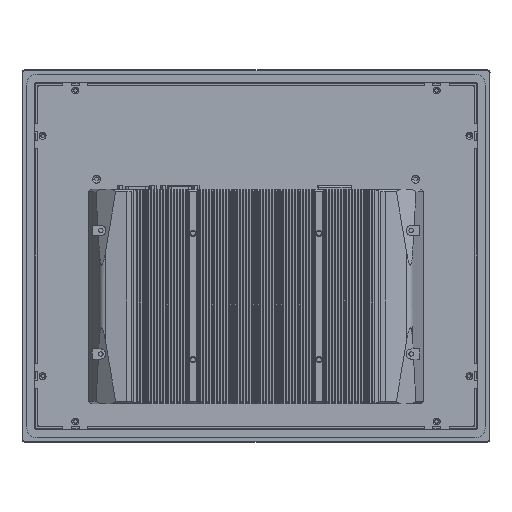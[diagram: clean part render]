
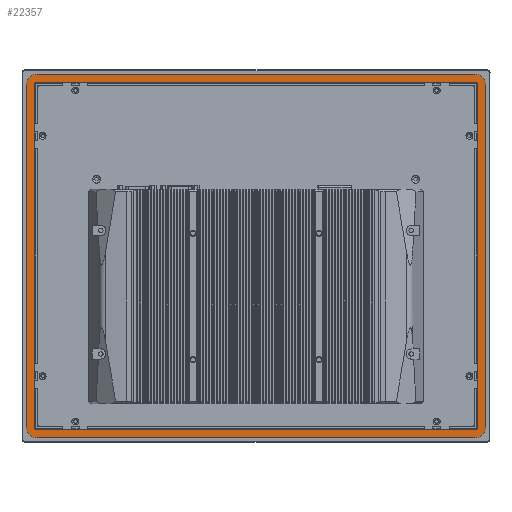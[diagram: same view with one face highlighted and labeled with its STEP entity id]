
A CAD part, front view. The second image highlights one B-rep face of the part: STEP entity #22357.
In plain terms, the highlighted planar face has unit normal (0, -1, 0).
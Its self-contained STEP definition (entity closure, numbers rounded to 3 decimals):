
#426 = ORIENTED_EDGE ( 'NONE', *, *, #109760, .T. ) ;
#1525 = DIRECTION ( 'NONE',  ( -1., 0., 0. ) ) ;
#4858 = EDGE_CURVE ( 'NONE', #86184, #73108, #131127, .T. ) ;
#7543 = DIRECTION ( 'NONE',  ( 0., 1., 0. ) ) ;
#7594 = CARTESIAN_POINT ( 'NONE',  ( 182., -9., 135.5 ) ) ;
#7769 = VERTEX_POINT ( 'NONE', #75004 ) ;
#8600 = CARTESIAN_POINT ( 'NONE',  ( -173.5, -9., 135.5 ) ) ;
#9319 = CARTESIAN_POINT ( 'NONE',  ( 0., -9., 0. ) ) ;
#9614 = LINE ( 'NONE', #27772, #41116 ) ;
#10634 = EDGE_LOOP ( 'NONE', ( #29752, #113581, #66271, #426, #45036, #32318, #91022, #114667 ) ) ;
#12299 = DIRECTION ( 'NONE',  ( 0., 0., -1. ) ) ;
#13173 = CARTESIAN_POINT ( 'NONE',  ( -173.5, -9., 135.5 ) ) ;
#13423 = CARTESIAN_POINT ( 'NONE',  ( 173.5, -9., -135.5 ) ) ;
#13858 = CARTESIAN_POINT ( 'NONE',  ( 175.5, -9., -137.5 ) ) ;
#14864 = CIRCLE ( 'NONE', #36003, 8.5 ) ;
#14929 = VERTEX_POINT ( 'NONE', #99655 ) ;
#16047 = CIRCLE ( 'NONE', #64985, 8.5 ) ;
#17199 = AXIS2_PLACEMENT_3D ( 'NONE', #13173, #63995, #12299 ) ;
#18467 = EDGE_CURVE ( 'NONE', #89894, #63931, #14864, .T. ) ;
#19795 = LINE ( 'NONE', #13858, #102134 ) ;
#20173 = CARTESIAN_POINT ( 'NONE',  ( -175.5, -9., 137.5 ) ) ;
#21706 = DIRECTION ( 'NONE',  ( 0., -1., 0. ) ) ;
#22357 = ADVANCED_FACE ( 'NONE', ( #129421, #99268 ), #51252, .T. ) ;
#22934 = CARTESIAN_POINT ( 'NONE',  ( -173.5, -9., 144. ) ) ;
#23606 = EDGE_CURVE ( 'NONE', #73108, #89894, #71598, .T. ) ;
#24020 = CARTESIAN_POINT ( 'NONE',  ( -173.5, -9., -135.5 ) ) ;
#24896 = CARTESIAN_POINT ( 'NONE',  ( -173.5, -9., 137.5 ) ) ;
#25351 = CARTESIAN_POINT ( 'NONE',  ( 173.5, -9., -135.5 ) ) ;
#27772 = CARTESIAN_POINT ( 'NONE',  ( 0., -9., -144. ) ) ;
#27859 = DIRECTION ( 'NONE',  ( 1., 0., 0. ) ) ;
#28459 = CARTESIAN_POINT ( 'NONE',  ( 175.5, -9., 135.5 ) ) ;
#29037 = CIRCLE ( 'NONE', #81958, 2. ) ;
#29039 = VERTEX_POINT ( 'NONE', #49029 ) ;
#29752 = ORIENTED_EDGE ( 'NONE', *, *, #69521, .T. ) ;
#32318 = ORIENTED_EDGE ( 'NONE', *, *, #53743, .T. ) ;
#32803 = DIRECTION ( 'NONE',  ( 0., 0., -1. ) ) ;
#33212 = DIRECTION ( 'NONE',  ( 0., 0., 1. ) ) ;
#33687 = DIRECTION ( 'NONE',  ( 0., 0., -1. ) ) ;
#34212 = DIRECTION ( 'NONE',  ( -1., 0., 0. ) ) ;
#34239 = DIRECTION ( 'NONE',  ( 0., 0., 1. ) ) ;
#36003 = AXIS2_PLACEMENT_3D ( 'NONE', #24020, #44796, #124582 ) ;
#38207 = VERTEX_POINT ( 'NONE', #113673 ) ;
#38414 = LINE ( 'NONE', #20173, #81293 ) ;
#40677 = EDGE_LOOP ( 'NONE', ( #108850, #105939, #73577, #49762, #96096, #103130, #63522, #41793 ) ) ;
#40905 = CARTESIAN_POINT ( 'NONE',  ( -175.5, -9., -135.5 ) ) ;
#40959 = AXIS2_PLACEMENT_3D ( 'NONE', #106099, #44865, #44442 ) ;
#41116 = VECTOR ( 'NONE', #100416, 1000. ) ;
#41793 = ORIENTED_EDGE ( 'NONE', *, *, #117603, .T. ) ;
#44442 = DIRECTION ( 'NONE',  ( 0., 0., 1. ) ) ;
#44796 = DIRECTION ( 'NONE',  ( 0., -1., 0. ) ) ;
#44811 = LINE ( 'NONE', #51952, #122525 ) ;
#44865 = DIRECTION ( 'NONE',  ( 0., 1., 0. ) ) ;
#45036 = ORIENTED_EDGE ( 'NONE', *, *, #127810, .T. ) ;
#45775 = CARTESIAN_POINT ( 'NONE',  ( -173.5, -9., -137.5 ) ) ;
#46421 = CARTESIAN_POINT ( 'NONE',  ( -173.5, -9., -135.5 ) ) ;
#48780 = DIRECTION ( 'NONE',  ( 0., 0., 1. ) ) ;
#49029 = CARTESIAN_POINT ( 'NONE',  ( 175.5, -9., -135.5 ) ) ;
#49762 = ORIENTED_EDGE ( 'NONE', *, *, #4858, .T. ) ;
#50664 = DIRECTION ( 'NONE',  ( 0., 0., -1. ) ) ;
#51252 = PLANE ( 'NONE',  #71720 ) ;
#51952 = CARTESIAN_POINT ( 'NONE',  ( 0., -9., 144. ) ) ;
#53743 = EDGE_CURVE ( 'NONE', #101739, #14929, #38414, .T. ) ;
#54075 = AXIS2_PLACEMENT_3D ( 'NONE', #13423, #84181, #33687 ) ;
#57363 = CIRCLE ( 'NONE', #77711, 2. ) ;
#63522 = ORIENTED_EDGE ( 'NONE', *, *, #83062, .T. ) ;
#63931 = VERTEX_POINT ( 'NONE', #123451 ) ;
#63995 = DIRECTION ( 'NONE',  ( 0., -1., 0. ) ) ;
#64985 = AXIS2_PLACEMENT_3D ( 'NONE', #124902, #21706, #85843 ) ;
#65017 = CIRCLE ( 'NONE', #54075, 8.5 ) ;
#66271 = ORIENTED_EDGE ( 'NONE', *, *, #117138, .T. ) ;
#66387 = EDGE_CURVE ( 'NONE', #121182, #99756, #85779, .T. ) ;
#67625 = EDGE_CURVE ( 'NONE', #94264, #29039, #19795, .T. ) ;
#67705 = LINE ( 'NONE', #101144, #83630 ) ;
#69521 = EDGE_CURVE ( 'NONE', #99756, #94264, #128334, .T. ) ;
#70867 = VECTOR ( 'NONE', #34239, 1000. ) ;
#71100 = CARTESIAN_POINT ( 'NONE',  ( -182., -9., 135.5 ) ) ;
#71598 = LINE ( 'NONE', #111379, #114481 ) ;
#71720 = AXIS2_PLACEMENT_3D ( 'NONE', #9319, #91996, #100020 ) ;
#73108 = VERTEX_POINT ( 'NONE', #71100 ) ;
#73577 = ORIENTED_EDGE ( 'NONE', *, *, #82220, .T. ) ;
#74122 = LINE ( 'NONE', #94958, #70867 ) ;
#75004 = CARTESIAN_POINT ( 'NONE',  ( 182., -9., -135.5 ) ) ;
#77711 = AXIS2_PLACEMENT_3D ( 'NONE', #25351, #122302, #33212 ) ;
#81293 = VECTOR ( 'NONE', #130943, 1000. ) ;
#81958 = AXIS2_PLACEMENT_3D ( 'NONE', #46421, #7543, #117339 ) ;
#82220 = EDGE_CURVE ( 'NONE', #38207, #86184, #44811, .T. ) ;
#82790 = EDGE_CURVE ( 'NONE', #117852, #38207, #16047, .T. ) ;
#83062 = EDGE_CURVE ( 'NONE', #63931, #104671, #9614, .T. ) ;
#83630 = VECTOR ( 'NONE', #1525, 1000. ) ;
#84181 = DIRECTION ( 'NONE',  ( 0., -1., 0. ) ) ;
#84448 = VERTEX_POINT ( 'NONE', #45775 ) ;
#85304 = CARTESIAN_POINT ( 'NONE',  ( 173.5, -9., 137.5 ) ) ;
#85779 = LINE ( 'NONE', #118767, #92119 ) ;
#85843 = DIRECTION ( 'NONE',  ( 0., 0., -1. ) ) ;
#86184 = VERTEX_POINT ( 'NONE', #22934 ) ;
#89025 = CARTESIAN_POINT ( 'NONE',  ( 173.5, -9., -144. ) ) ;
#89894 = VERTEX_POINT ( 'NONE', #99337 ) ;
#91022 = ORIENTED_EDGE ( 'NONE', *, *, #100402, .F. ) ;
#91996 = DIRECTION ( 'NONE',  ( 0., -1., 0. ) ) ;
#92119 = VECTOR ( 'NONE', #27859, 1000. ) ;
#94264 = VERTEX_POINT ( 'NONE', #28459 ) ;
#94958 = CARTESIAN_POINT ( 'NONE',  ( 182., -9., 0. ) ) ;
#96096 = ORIENTED_EDGE ( 'NONE', *, *, #23606, .T. ) ;
#99268 = FACE_OUTER_BOUND ( 'NONE', #40677, .T. ) ;
#99337 = CARTESIAN_POINT ( 'NONE',  ( -182., -9., -135.5 ) ) ;
#99655 = CARTESIAN_POINT ( 'NONE',  ( -175.5, -9., 135.5 ) ) ;
#99756 = VERTEX_POINT ( 'NONE', #85304 ) ;
#100020 = DIRECTION ( 'NONE',  ( 0., 0., -1. ) ) ;
#100402 = EDGE_CURVE ( 'NONE', #121182, #14929, #116905, .T. ) ;
#100416 = DIRECTION ( 'NONE',  ( 1., 0., 0. ) ) ;
#101144 = CARTESIAN_POINT ( 'NONE',  ( -175.5, -9., -137.5 ) ) ;
#101739 = VERTEX_POINT ( 'NONE', #40905 ) ;
#102134 = VECTOR ( 'NONE', #32803, 1000. ) ;
#103130 = ORIENTED_EDGE ( 'NONE', *, *, #18467, .T. ) ;
#104381 = EDGE_CURVE ( 'NONE', #7769, #117852, #74122, .T. ) ;
#104671 = VERTEX_POINT ( 'NONE', #89025 ) ;
#105939 = ORIENTED_EDGE ( 'NONE', *, *, #82790, .T. ) ;
#106099 = CARTESIAN_POINT ( 'NONE',  ( 173.5, -9., 135.5 ) ) ;
#108850 = ORIENTED_EDGE ( 'NONE', *, *, #104381, .T. ) ;
#109760 = EDGE_CURVE ( 'NONE', #121645, #84448, #67705, .T. ) ;
#111379 = CARTESIAN_POINT ( 'NONE',  ( -182., -9., 0. ) ) ;
#113581 = ORIENTED_EDGE ( 'NONE', *, *, #67625, .T. ) ;
#113673 = CARTESIAN_POINT ( 'NONE',  ( 173.5, -9., 144. ) ) ;
#114481 = VECTOR ( 'NONE', #50664, 1000. ) ;
#114667 = ORIENTED_EDGE ( 'NONE', *, *, #66387, .T. ) ;
#115578 = CARTESIAN_POINT ( 'NONE',  ( 173.5, -9., -137.5 ) ) ;
#116905 = CIRCLE ( 'NONE', #127849, 2. ) ;
#117138 = EDGE_CURVE ( 'NONE', #29039, #121645, #57363, .T. ) ;
#117339 = DIRECTION ( 'NONE',  ( 0., 0., 1. ) ) ;
#117603 = EDGE_CURVE ( 'NONE', #104671, #7769, #65017, .T. ) ;
#117852 = VERTEX_POINT ( 'NONE', #7594 ) ;
#118767 = CARTESIAN_POINT ( 'NONE',  ( 175.5, -9., 137.5 ) ) ;
#118852 = DIRECTION ( 'NONE',  ( 0., -1., 0. ) ) ;
#121182 = VERTEX_POINT ( 'NONE', #24896 ) ;
#121645 = VERTEX_POINT ( 'NONE', #115578 ) ;
#122302 = DIRECTION ( 'NONE',  ( 0., 1., 0. ) ) ;
#122525 = VECTOR ( 'NONE', #34212, 1000. ) ;
#123451 = CARTESIAN_POINT ( 'NONE',  ( -173.5, -9., -144. ) ) ;
#124582 = DIRECTION ( 'NONE',  ( 0., 0., -1. ) ) ;
#124902 = CARTESIAN_POINT ( 'NONE',  ( 173.5, -9., 135.5 ) ) ;
#127810 = EDGE_CURVE ( 'NONE', #84448, #101739, #29037, .T. ) ;
#127849 = AXIS2_PLACEMENT_3D ( 'NONE', #8600, #118852, #48780 ) ;
#128334 = CIRCLE ( 'NONE', #40959, 2. ) ;
#129421 = FACE_BOUND ( 'NONE', #10634, .T. ) ;
#130943 = DIRECTION ( 'NONE',  ( 0., 0., 1. ) ) ;
#131127 = CIRCLE ( 'NONE', #17199, 8.5 ) ;
